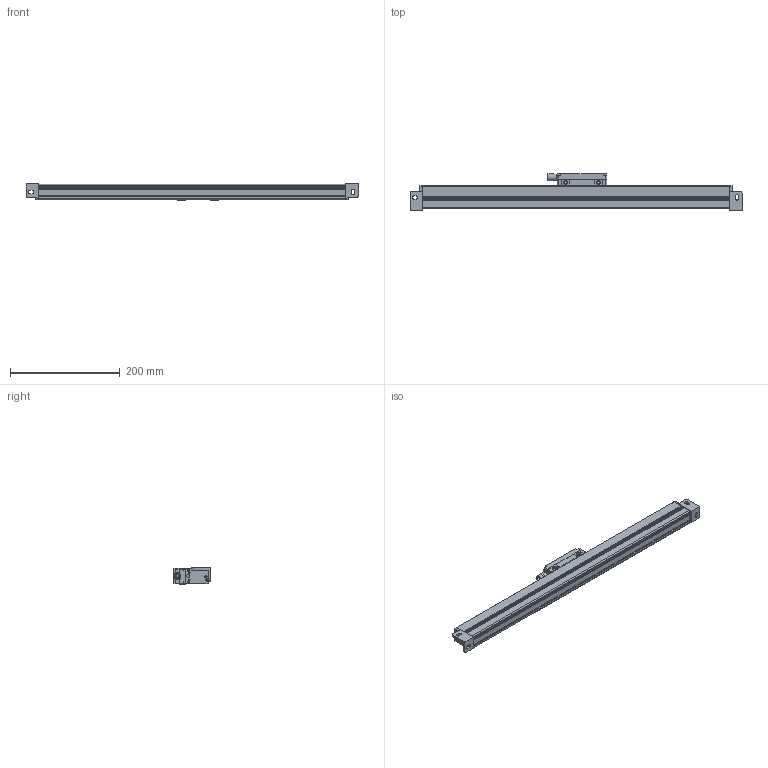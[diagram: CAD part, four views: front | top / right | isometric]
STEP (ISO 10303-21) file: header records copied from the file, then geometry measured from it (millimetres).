
FILE_DESCRIPTION (( 'STEP AP214' ), '1' );
FILE_NAME ('JCXE-L-0450.STEP', '2021-12-16T03:00:42', ( '微软用户' ), ( '微软中国' ), 'SwSTEP 2.0', 'SolidWorks 2010', '' );
FILE_SCHEMA (( 'AUTOMOTIVE_DESIGN' ));
Length unit declared in the file: millimetre
Products named in the file (7): MSBR-5_1-1; PRT0002; MSBR-4_1-1; MSBR-3_1-1; MSBR-2_1-1; 嫖掑喜旯L1200; JCXE-L-0450
Assembly tree (6 placements, depth 2):
  JCXE-L-0450
    MSBR-4_1-1
    MSBR-3_1-1
    嫖掑喜旯L1200
    PRT0002
    MSBR-5_1-1
    MSBR-2_1-1
Bounding box: 604 x 66.8 x 29.5 mm (x, y, z)
Volume: 301426.8 mm3; surface area: 202332.1 mm2
Topology: 6 solids, 6 shells, 547 faces, 1493 edges, 984 vertices
Faces by surface type: plane 331, cylinder 161, cone 27, bspline 25, sphere 3
Entity records: 18988 total; most frequent: CARTESIAN_POINT 4706, ORIENTED_EDGE 2978, DIRECTION 2838, EDGE_CURVE 1489, LINE 1018, VECTOR 1018, VERTEX_POINT 982, AXIS2_PLACEMENT_3D 910
